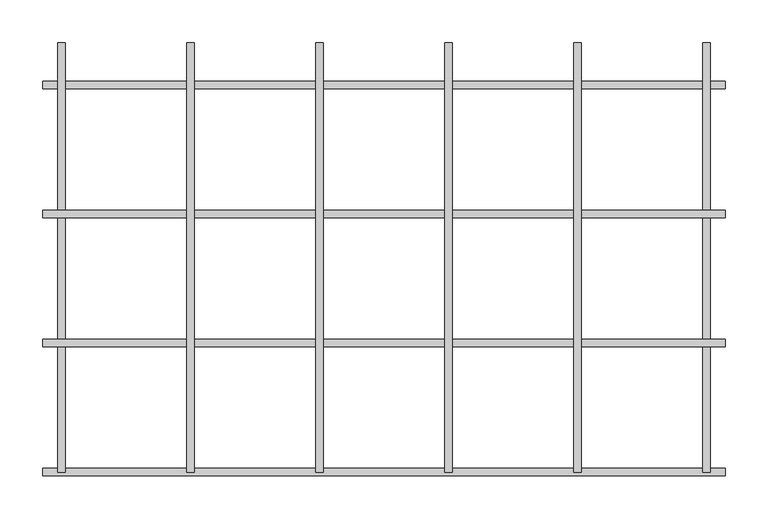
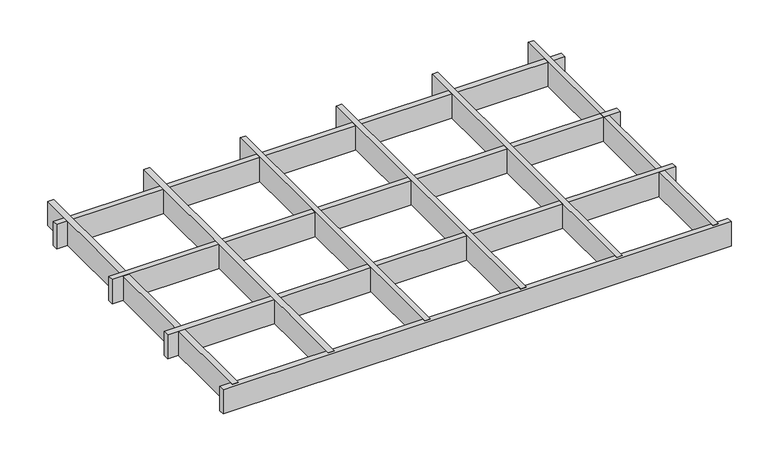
"""IFC4 building model written with IfcOpenShell, lengths in millimetres: proxy geometry, durlum_GEO_panel : durlum_GEO_9_corner_cut."""

from ifc_helpers import new_model, si_unit, origin, origin_with_axes, place, context, project, spatial, polyline, outline, extrude, source, transform, mapped, element, save


def generic_models_cc0eb073(model_context):
    return source(origin(), model_context, "Body", "SweptSolid", [
        extrude(outline(polyline([(220.5, 249.5), (229.5, 249.5), (229.5, -249.5), (220.5, -249.5), (220.5, 249.5)])), origin_with_axes(), (0.0, 0.0, 1.0), 40.0),
        extrude(outline(polyline([(70.5, 249.5), (79.5, 249.5), (79.5, -249.5), (70.5, -249.5), (70.5, 249.5)])), origin_with_axes(), (0.0, 0.0, 1.0), 40.0),
        extrude(outline(polyline([(-79.5, 249.5), (-70.5, 249.5), (-70.5, -249.5), (-79.5, -249.5), (-79.5, 249.5)])), origin_with_axes(), (0.0, 0.0, 1.0), 40.0),
        extrude(outline(polyline([(-229.5, 249.5), (-220.5, 249.5), (-220.5, -249.5), (-229.5, -249.5), (-229.5, 249.5)])), origin_with_axes(), (0.0, 0.0, 1.0), 40.0),
        extrude(outline(polyline([(396.5628516, -95.0), (396.5628516, -104.0), (-396.5628516, -104.0), (-396.5628516, -95.0), (396.5628516, -95.0)])), origin_with_axes(), (0.0, 0.0, 1.0), 40.0),
        extrude(outline(polyline([(396.5628516, 55.0), (396.5628516, 46.0), (-396.5628516, 46.0), (-396.5628516, 55.0), (396.5628516, 55.0)])), origin_with_axes(), (0.0, 0.0, 1.0), 40.0),
        extrude(outline(polyline([(370.5, 249.5), (379.5, 249.5), (379.5, -249.5), (370.5, -249.5), (370.5, 249.5)])), origin_with_axes(), (0.0, 0.0, 1.0), 40.0),
        extrude(outline(polyline([(-379.5, 249.5), (-370.5, 249.5), (-370.5, -249.5), (-379.5, -249.5), (-379.5, 249.5)])), origin_with_axes(), (0.0, 0.0, 1.0), 40.0),
        extrude(outline(polyline([(396.5628516, -245.0), (396.5628516, -254.0), (-396.5628516, -254.0), (-396.5628516, -245.0), (396.5628516, -245.0)])), origin_with_axes(), (0.0, 0.0, 1.0), 40.0),
        extrude(outline(polyline([(396.5628516, 205.0), (396.5628516, 196.0), (-396.5628516, 196.0), (-396.5628516, 205.0), (396.5628516, 205.0)])), origin_with_axes(), (0.0, 0.0, 1.0), 40.0),
    ])


if __name__ == "__main__":
    model = new_model("IFC4")
    model_context = context("Model", 3, world=origin())
    ifc_project = project(units=[si_unit("LENGTHUNIT", "METRE", prefix="MILLI")], contexts=[model_context])
    site = spatial("IfcSite", under=ifc_project)
    building = spatial("IfcBuilding", under=site)
    placement = place(None, origin())
    generic_models_shape = generic_models_cc0eb073(model_context)
    element("IfcBuildingElementProxy", 1, Name="durlum_GEO_panel : durlum_GEO_9_corner_cut", ObjectType="durlum_GEO_panel : durlum_GEO_9_corner_cut", at=placement, inside=building, context=model_context, shape_type="MappedRepresentation", body=[
        mapped(generic_models_shape, transform((0.0, 0.0, 0.0), x_axis=(1.0, 0.0, 0.0), y_axis=(0.0, 1.0, 0.0), z_axis=(0.0, 0.0, 1.0))),
    ])
    save(model, "model.ifc")
